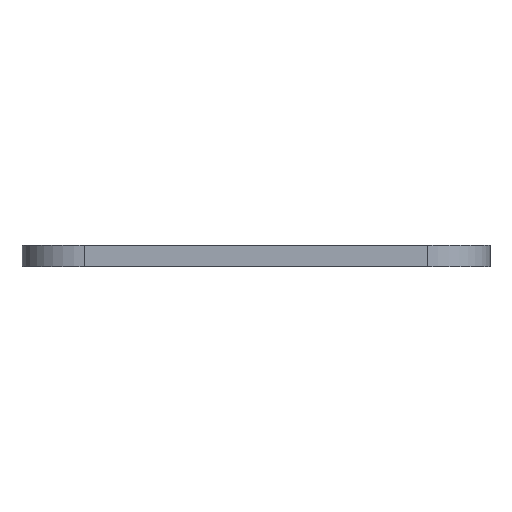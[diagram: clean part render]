
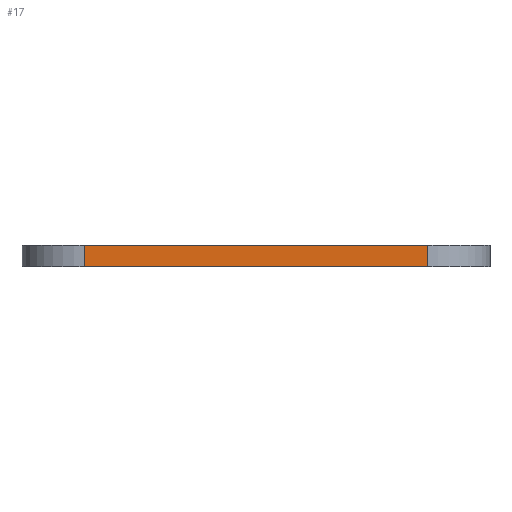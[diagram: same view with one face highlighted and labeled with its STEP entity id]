
A CAD part, left-side view. The second image highlights one B-rep face of the part: STEP entity #17.
In plain terms, the highlighted planar face has unit normal (-1, 0, 0).
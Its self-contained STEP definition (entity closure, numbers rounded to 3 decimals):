
#17 = ADVANCED_FACE('',(#18),#32,.F.);
#18 = FACE_BOUND('',#19,.F.);
#19 = EDGE_LOOP('',(#20,#55,#83,#111));
#20 = ORIENTED_EDGE('',*,*,#21,.F.);
#21 = EDGE_CURVE('',#22,#24,#26,.T.);
#22 = VERTEX_POINT('',#23);
#23 = CARTESIAN_POINT('',(-2.,-19.35,12.4));
#24 = VERTEX_POINT('',#25);
#25 = CARTESIAN_POINT('',(-2.,-17.15,12.4));
#26 = SURFACE_CURVE('',#27,(#31,#43),.PCURVE_S1.);
#27 = LINE('',#28,#29);
#28 = CARTESIAN_POINT('',(-2.,-19.75,12.4));
#29 = VECTOR('',#30,1.);
#30 = DIRECTION('',(0.,1.,0.));
#31 = PCURVE('',#32,#37);
#32 = PLANE('',#33);
#33 = AXIS2_PLACEMENT_3D('',#34,#35,#36);
#34 = CARTESIAN_POINT('',(-2.,-19.75,12.26));
#35 = DIRECTION('',(1.,0.,0.));
#36 = DIRECTION('',(0.,0.,1.));
#37 = DEFINITIONAL_REPRESENTATION('',(#38),#42);
#38 = LINE('',#39,#40);
#39 = CARTESIAN_POINT('',(0.14,0.));
#40 = VECTOR('',#41,1.);
#41 = DIRECTION('',(0.,-1.));
#42 = ( GEOMETRIC_REPRESENTATION_CONTEXT(2) 
PARAMETRIC_REPRESENTATION_CONTEXT() REPRESENTATION_CONTEXT('2D SPACE',''
  ) );
#43 = PCURVE('',#44,#49);
#44 = PLANE('',#45);
#45 = AXIS2_PLACEMENT_3D('',#46,#47,#48);
#46 = CARTESIAN_POINT('',(-2.,-19.75,12.4));
#47 = DIRECTION('',(0.,0.,1.));
#48 = DIRECTION('',(1.,0.,-0.));
#49 = DEFINITIONAL_REPRESENTATION('',(#50),#54);
#50 = LINE('',#51,#52);
#51 = CARTESIAN_POINT('',(0.,0.));
#52 = VECTOR('',#53,1.);
#53 = DIRECTION('',(0.,1.));
#54 = ( GEOMETRIC_REPRESENTATION_CONTEXT(2) 
PARAMETRIC_REPRESENTATION_CONTEXT() REPRESENTATION_CONTEXT('2D SPACE',''
  ) );
#55 = ORIENTED_EDGE('',*,*,#56,.F.);
#56 = EDGE_CURVE('',#57,#22,#59,.T.);
#57 = VERTEX_POINT('',#58);
#58 = CARTESIAN_POINT('',(-2.,-19.35,12.26));
#59 = SURFACE_CURVE('',#60,(#64,#71),.PCURVE_S1.);
#60 = LINE('',#61,#62);
#61 = CARTESIAN_POINT('',(-2.,-19.35,12.26));
#62 = VECTOR('',#63,1.);
#63 = DIRECTION('',(0.,0.,1.));
#64 = PCURVE('',#32,#65);
#65 = DEFINITIONAL_REPRESENTATION('',(#66),#70);
#66 = LINE('',#67,#68);
#67 = CARTESIAN_POINT('',(0.,-0.4));
#68 = VECTOR('',#69,1.);
#69 = DIRECTION('',(1.,0.));
#70 = ( GEOMETRIC_REPRESENTATION_CONTEXT(2) 
PARAMETRIC_REPRESENTATION_CONTEXT() REPRESENTATION_CONTEXT('2D SPACE',''
  ) );
#71 = PCURVE('',#72,#77);
#72 = CYLINDRICAL_SURFACE('',#73,0.4);
#73 = AXIS2_PLACEMENT_3D('',#74,#75,#76);
#74 = CARTESIAN_POINT('',(-1.6,-19.35,12.26));
#75 = DIRECTION('',(0.,0.,1.));
#76 = DIRECTION('',(-1.,-0.,0.));
#77 = DEFINITIONAL_REPRESENTATION('',(#78),#82);
#78 = LINE('',#79,#80);
#79 = CARTESIAN_POINT('',(0.,0.));
#80 = VECTOR('',#81,1.);
#81 = DIRECTION('',(0.,1.));
#82 = ( GEOMETRIC_REPRESENTATION_CONTEXT(2) 
PARAMETRIC_REPRESENTATION_CONTEXT() REPRESENTATION_CONTEXT('2D SPACE',''
  ) );
#83 = ORIENTED_EDGE('',*,*,#84,.T.);
#84 = EDGE_CURVE('',#57,#85,#87,.T.);
#85 = VERTEX_POINT('',#86);
#86 = CARTESIAN_POINT('',(-2.,-17.15,12.26));
#87 = SURFACE_CURVE('',#88,(#92,#99),.PCURVE_S1.);
#88 = LINE('',#89,#90);
#89 = CARTESIAN_POINT('',(-2.,-19.75,12.26));
#90 = VECTOR('',#91,1.);
#91 = DIRECTION('',(0.,1.,0.));
#92 = PCURVE('',#32,#93);
#93 = DEFINITIONAL_REPRESENTATION('',(#94),#98);
#94 = LINE('',#95,#96);
#95 = CARTESIAN_POINT('',(0.,0.));
#96 = VECTOR('',#97,1.);
#97 = DIRECTION('',(0.,-1.));
#98 = ( GEOMETRIC_REPRESENTATION_CONTEXT(2) 
PARAMETRIC_REPRESENTATION_CONTEXT() REPRESENTATION_CONTEXT('2D SPACE',''
  ) );
#99 = PCURVE('',#100,#105);
#100 = PLANE('',#101);
#101 = AXIS2_PLACEMENT_3D('',#102,#103,#104);
#102 = CARTESIAN_POINT('',(-2.,-19.75,12.26));
#103 = DIRECTION('',(0.,0.,1.));
#104 = DIRECTION('',(1.,0.,-0.));
#105 = DEFINITIONAL_REPRESENTATION('',(#106),#110);
#106 = LINE('',#107,#108);
#107 = CARTESIAN_POINT('',(0.,0.));
#108 = VECTOR('',#109,1.);
#109 = DIRECTION('',(0.,1.));
#110 = ( GEOMETRIC_REPRESENTATION_CONTEXT(2) 
PARAMETRIC_REPRESENTATION_CONTEXT() REPRESENTATION_CONTEXT('2D SPACE',''
  ) );
#111 = ORIENTED_EDGE('',*,*,#112,.T.);
#112 = EDGE_CURVE('',#85,#24,#113,.T.);
#113 = SURFACE_CURVE('',#114,(#118,#125),.PCURVE_S1.);
#114 = LINE('',#115,#116);
#115 = CARTESIAN_POINT('',(-2.,-17.15,12.26));
#116 = VECTOR('',#117,1.);
#117 = DIRECTION('',(0.,0.,1.));
#118 = PCURVE('',#32,#119);
#119 = DEFINITIONAL_REPRESENTATION('',(#120),#124);
#120 = LINE('',#121,#122);
#121 = CARTESIAN_POINT('',(0.,-2.6));
#122 = VECTOR('',#123,1.);
#123 = DIRECTION('',(1.,0.));
#124 = ( GEOMETRIC_REPRESENTATION_CONTEXT(2) 
PARAMETRIC_REPRESENTATION_CONTEXT() REPRESENTATION_CONTEXT('2D SPACE',''
  ) );
#125 = PCURVE('',#126,#131);
#126 = CYLINDRICAL_SURFACE('',#127,0.4);
#127 = AXIS2_PLACEMENT_3D('',#128,#129,#130);
#128 = CARTESIAN_POINT('',(-1.6,-17.15,12.26));
#129 = DIRECTION('',(0.,0.,1.));
#130 = DIRECTION('',(-1.,-0.,0.));
#131 = DEFINITIONAL_REPRESENTATION('',(#132),#136);
#132 = LINE('',#133,#134);
#133 = CARTESIAN_POINT('',(6.283,0.));
#134 = VECTOR('',#135,1.);
#135 = DIRECTION('',(-0.,1.));
#136 = ( GEOMETRIC_REPRESENTATION_CONTEXT(2) 
PARAMETRIC_REPRESENTATION_CONTEXT() REPRESENTATION_CONTEXT('2D SPACE',''
  ) );
